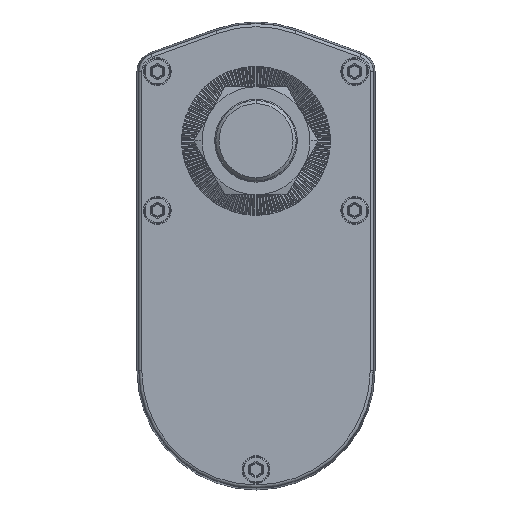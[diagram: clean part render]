
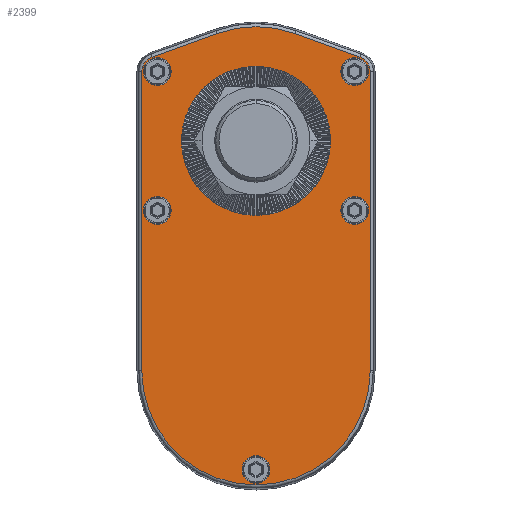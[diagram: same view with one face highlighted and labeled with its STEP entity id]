
A CAD part, top view. The second image highlights one B-rep face of the part: STEP entity #2399.
In plain terms, the highlighted planar face has unit normal (0, 0, 1).
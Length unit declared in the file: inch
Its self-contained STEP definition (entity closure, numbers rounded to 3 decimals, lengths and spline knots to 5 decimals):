
#2399=ADVANCED_FACE('NONE',(#4963,#4964,#4965,#4966,#4967,#4968,#4969),#4970,.F.);
#4963=FACE_OUTER_BOUND('',#10912,.T.);
#4964=FACE_BOUND('',#10913,.T.);
#4965=FACE_BOUND('',#10914,.T.);
#4966=FACE_BOUND('',#10915,.T.);
#4967=FACE_BOUND('',#10916,.T.);
#4968=FACE_BOUND('',#10917,.T.);
#4969=FACE_BOUND('',#10918,.T.);
#4970=PLANE('',#10919);
#10912=EDGE_LOOP('',(#18228,#18229,#18230,#18231,#18232,#18233,#18234,#18235));
#10913=EDGE_LOOP('',(#18236,#18237));
#10914=EDGE_LOOP('',(#18238,#18239));
#10915=EDGE_LOOP('',(#18240,#18241));
#10916=EDGE_LOOP('',(#18242,#18243));
#10917=EDGE_LOOP('',(#18244,#18245));
#10918=EDGE_LOOP('',(#18246,#18247));
#10919=AXIS2_PLACEMENT_3D('',#18248,#18249,#18250);
#18228=ORIENTED_EDGE('',*,*,#22574,.T.);
#18229=ORIENTED_EDGE('',*,*,#22011,.T.);
#18230=ORIENTED_EDGE('',*,*,#22722,.T.);
#18231=ORIENTED_EDGE('',*,*,#21433,.T.);
#18232=ORIENTED_EDGE('',*,*,#22723,.T.);
#18233=ORIENTED_EDGE('',*,*,#21063,.T.);
#18234=ORIENTED_EDGE('',*,*,#22724,.T.);
#18235=ORIENTED_EDGE('',*,*,#22725,.T.);
#18236=ORIENTED_EDGE('',*,*,#22726,.F.);
#18237=ORIENTED_EDGE('',*,*,#22265,.F.);
#18238=ORIENTED_EDGE('',*,*,#22376,.F.);
#18239=ORIENTED_EDGE('',*,*,#21896,.F.);
#18240=ORIENTED_EDGE('',*,*,#19951,.F.);
#18241=ORIENTED_EDGE('',*,*,#21058,.F.);
#18242=ORIENTED_EDGE('',*,*,#22727,.F.);
#18243=ORIENTED_EDGE('',*,*,#22661,.F.);
#18244=ORIENTED_EDGE('',*,*,#22666,.F.);
#18245=ORIENTED_EDGE('',*,*,#22728,.F.);
#18246=ORIENTED_EDGE('',*,*,#22031,.F.);
#18247=ORIENTED_EDGE('',*,*,#22729,.F.);
#18248=CARTESIAN_POINT('',(-0.28293,1.88378,11.76378));
#18249=DIRECTION('',(0.0,0.0,-1.0));
#18250=DIRECTION('',(0.0,-1.0,0.0));
#19951=EDGE_CURVE('NONE',#23290,#23293,#23294,.T.);
#21058=EDGE_CURVE('NONE',#23293,#23290,#25151,.T.);
#21063=EDGE_CURVE('NONE',#25154,#25158,#25160,.T.);
#21433=EDGE_CURVE('NONE',#25709,#25707,#25710,.T.);
#21896=EDGE_CURVE('NONE',#26360,#26362,#26363,.T.);
#22011=EDGE_CURVE('NONE',#26509,#26511,#26513,.T.);
#22031=EDGE_CURVE('NONE',#26538,#26540,#26541,.T.);
#22265=EDGE_CURVE('NONE',#26834,#26836,#26837,.T.);
#22376=EDGE_CURVE('NONE',#26362,#26360,#26972,.T.);
#22574=EDGE_CURVE('NONE',#27192,#26509,#27194,.T.);
#22661=EDGE_CURVE('NONE',#27294,#27292,#27296,.T.);
#22666=EDGE_CURVE('NONE',#27300,#27302,#27303,.T.);
#22722=EDGE_CURVE('NONE',#26511,#25709,#27372,.T.);
#22723=EDGE_CURVE('NONE',#25707,#25154,#27373,.T.);
#22724=EDGE_CURVE('NONE',#25158,#27374,#27375,.T.);
#22725=EDGE_CURVE('NONE',#27374,#27192,#27376,.T.);
#22726=EDGE_CURVE('NONE',#26836,#26834,#27377,.T.);
#22727=EDGE_CURVE('NONE',#27292,#27294,#27378,.T.);
#22728=EDGE_CURVE('NONE',#27302,#27300,#27379,.T.);
#22729=EDGE_CURVE('NONE',#26540,#26538,#27380,.T.);
#23290=VERTEX_POINT('NONE',#28296);
#23293=VERTEX_POINT('',#28300);
#23294=CIRCLE('',#28301,0.17717);
#25151=CIRCLE('',#33190,0.17717);
#25154=VERTEX_POINT('NONE',#33193);
#25158=VERTEX_POINT('NONE',#33197);
#25160=CIRCLE('',#33199,1.45738);
#25707=VERTEX_POINT('NONE',#34861);
#25709=VERTEX_POINT('NONE',#34863);
#25710=CIRCLE('',#34864,0.19754);
#26360=VERTEX_POINT('',#36959);
#26362=VERTEX_POINT('NONE',#36962);
#26363=CIRCLE('',#36963,0.17717);
#26509=VERTEX_POINT('NONE',#37485);
#26511=VERTEX_POINT('NONE',#37487);
#26513=CIRCLE('',#37489,1.45718);
#26538=VERTEX_POINT('NONE',#37556);
#26540=VERTEX_POINT('',#37559);
#26541=CIRCLE('',#37560,0.94882);
#26834=VERTEX_POINT('',#38650);
#26836=VERTEX_POINT('NONE',#38653);
#26837=CIRCLE('',#38654,0.17717);
#26972=CIRCLE('',#39142,0.17717);
#27192=VERTEX_POINT('NONE',#39826);
#27194=LINE('',#39828,#39829);
#27292=VERTEX_POINT('NONE',#40256);
#27294=VERTEX_POINT('',#40259);
#27296=CIRCLE('',#40262,0.17717);
#27300=VERTEX_POINT('NONE',#40276);
#27302=VERTEX_POINT('',#40279);
#27303=CIRCLE('',#40280,0.17717);
#27372=LINE('',#40457,#40458);
#27373=LINE('',#40459,#40460);
#27374=VERTEX_POINT('NONE',#40461);
#27375=LINE('',#40462,#40463);
#27376=CIRCLE('',#40464,0.19754);
#27377=CIRCLE('',#40465,0.17717);
#27378=CIRCLE('',#40466,0.17717);
#27379=CIRCLE('',#40467,0.17717);
#27380=CIRCLE('',#40468,0.94882);
#28296=CARTESIAN_POINT('',(-0.10576,-2.31071,11.76378));
#28300=CARTESIAN_POINT('',(-0.4601,-2.31071,11.76378));
#28301=AXIS2_PLACEMENT_3D('',#41426,#41427,#41428);
#33190=AXIS2_PLACEMENT_3D('',#42395,#42396,#42397);
#33193=CARTESIAN_POINT('',(0.21256,3.25434,11.76378));
#33197=CARTESIAN_POINT('',(-0.77842,3.25434,11.76378));
#33199=AXIS2_PLACEMENT_3D('',#42407,#42408,#42409);
#34861=CARTESIAN_POINT('',(1.04388,2.9538,11.76378));
#34863=CARTESIAN_POINT('',(1.17425,2.76803,11.76378));
#34864=AXIS2_PLACEMENT_3D('',#42725,#42726,#42727);
#36959=CARTESIAN_POINT('',(1.15408,0.99638,11.76378));
#36962=CARTESIAN_POINT('',(0.79975,0.99638,11.76378));
#36963=AXIS2_PLACEMENT_3D('',#43082,#43083,#43084);
#37485=CARTESIAN_POINT('',(-1.74011,-1.0491,11.76378));
#37487=CARTESIAN_POINT('',(1.17425,-1.0491,11.76378));
#37489=AXIS2_PLACEMENT_3D('',#43153,#43154,#43155);
#37556=CARTESIAN_POINT('',(-1.23175,1.88378,11.76378));
#37559=CARTESIAN_POINT('',(0.66589,1.88378,11.76378));
#37560=AXIS2_PLACEMENT_3D('',#43177,#43178,#43179);
#38650=CARTESIAN_POINT('',(1.15408,2.76803,11.76378));
#38653=CARTESIAN_POINT('',(0.79975,2.76803,11.76378));
#38654=AXIS2_PLACEMENT_3D('',#43370,#43371,#43372);
#39142=AXIS2_PLACEMENT_3D('',#43446,#43447,#43448);
#39826=CARTESIAN_POINT('',(-1.74011,2.76803,11.76378));
#39828=CARTESIAN_POINT('',(-1.74011,-1.0491,11.76378));
#39829=VECTOR('',#43615,39.37008);
#40256=CARTESIAN_POINT('',(-1.36561,0.99638,11.76378));
#40259=CARTESIAN_POINT('',(-1.71994,0.99638,11.76378));
#40262=AXIS2_PLACEMENT_3D('',#43646,#43647,#43648);
#40276=CARTESIAN_POINT('',(-1.36561,2.76803,11.76378));
#40279=CARTESIAN_POINT('',(-1.71994,2.76803,11.76378));
#40280=AXIS2_PLACEMENT_3D('',#43650,#43651,#43652);
#40457=CARTESIAN_POINT('',(1.17425,2.76803,11.76378));
#40458=VECTOR('',#43688,39.37008);
#40459=CARTESIAN_POINT('',(0.21256,3.25434,11.76378));
#40460=VECTOR('',#43689,39.37008);
#40461=CARTESIAN_POINT('',(-1.60974,2.9538,11.76378));
#40462=CARTESIAN_POINT('',(-1.60974,2.9538,11.76378));
#40463=VECTOR('',#43690,39.37008);
#40464=AXIS2_PLACEMENT_3D('',#43691,#43692,#43693);
#40465=AXIS2_PLACEMENT_3D('',#43694,#43695,#43696);
#40466=AXIS2_PLACEMENT_3D('',#43697,#43698,#43699);
#40467=AXIS2_PLACEMENT_3D('',#43700,#43701,#43702);
#40468=AXIS2_PLACEMENT_3D('',#43703,#43704,#43705);
#41426=CARTESIAN_POINT('',(-0.28293,-2.31071,11.76378));
#41427=DIRECTION('',(0.0,0.0,1.0));
#41428=DIRECTION('',(1.0,0.0,0.0));
#42395=CARTESIAN_POINT('',(-0.28293,-2.31071,11.76378));
#42396=DIRECTION('',(0.0,0.0,1.0));
#42397=DIRECTION('',(1.0,0.0,0.0));
#42407=CARTESIAN_POINT('',(-0.28293,1.88378,11.76378));
#42408=DIRECTION('',(0.0,0.0,1.0));
#42409=DIRECTION('',(-1.0,0.,0.0));
#42725=CARTESIAN_POINT('',(0.97672,2.76803,11.76378));
#42726=DIRECTION('',(0.0,0.0,1.0));
#42727=DIRECTION('',(-1.0,0.,0.0));
#43082=CARTESIAN_POINT('',(0.97691,0.99638,11.76378));
#43083=DIRECTION('',(0.0,0.0,1.0));
#43084=DIRECTION('',(-1.0,0.0,0.0));
#43153=CARTESIAN_POINT('',(-0.28293,-1.0491,11.76378));
#43154=DIRECTION('',(0.0,0.0,1.0));
#43155=DIRECTION('',(-1.0,0.0,0.0));
#43177=CARTESIAN_POINT('',(-0.28293,1.88378,11.76378));
#43178=DIRECTION('',(0.0,0.0,1.0));
#43179=DIRECTION('',(-1.0,0.0,0.0));
#43370=CARTESIAN_POINT('',(0.97691,2.76803,11.76378));
#43371=DIRECTION('',(0.0,0.0,1.0));
#43372=DIRECTION('',(-1.0,0.0,0.0));
#43446=CARTESIAN_POINT('',(0.97691,0.99638,11.76378));
#43447=DIRECTION('',(0.0,0.0,1.0));
#43448=DIRECTION('',(-1.0,0.0,0.0));
#43615=DIRECTION('',(0.,-1.0,-0.0));
#43646=CARTESIAN_POINT('',(-1.54277,0.99638,11.76378));
#43647=DIRECTION('',(0.0,0.0,1.0));
#43648=DIRECTION('',(1.0,0.0,0.0));
#43650=CARTESIAN_POINT('',(-1.54277,2.76803,11.76378));
#43651=DIRECTION('',(0.0,0.0,1.0));
#43652=DIRECTION('',(1.0,0.0,0.0));
#43688=DIRECTION('',(0.,1.0,0.0));
#43689=DIRECTION('',(-0.94,0.34,0.0));
#43690=DIRECTION('',(-0.94,-0.34,-0.0));
#43691=CARTESIAN_POINT('',(-1.54258,2.76803,11.76378));
#43692=DIRECTION('',(0.0,0.0,1.0));
#43693=DIRECTION('',(-1.0,0.0,0.0));
#43694=CARTESIAN_POINT('',(0.97691,2.76803,11.76378));
#43695=DIRECTION('',(0.0,0.0,1.0));
#43696=DIRECTION('',(-1.0,0.0,0.0));
#43697=CARTESIAN_POINT('',(-1.54277,0.99638,11.76378));
#43698=DIRECTION('',(0.0,0.0,1.0));
#43699=DIRECTION('',(1.0,0.0,0.0));
#43700=CARTESIAN_POINT('',(-1.54277,2.76803,11.76378));
#43701=DIRECTION('',(0.0,0.0,1.0));
#43702=DIRECTION('',(1.0,0.0,0.0));
#43703=CARTESIAN_POINT('',(-0.28293,1.88378,11.76378));
#43704=DIRECTION('',(0.0,0.0,1.0));
#43705=DIRECTION('',(-1.0,0.0,0.0));
